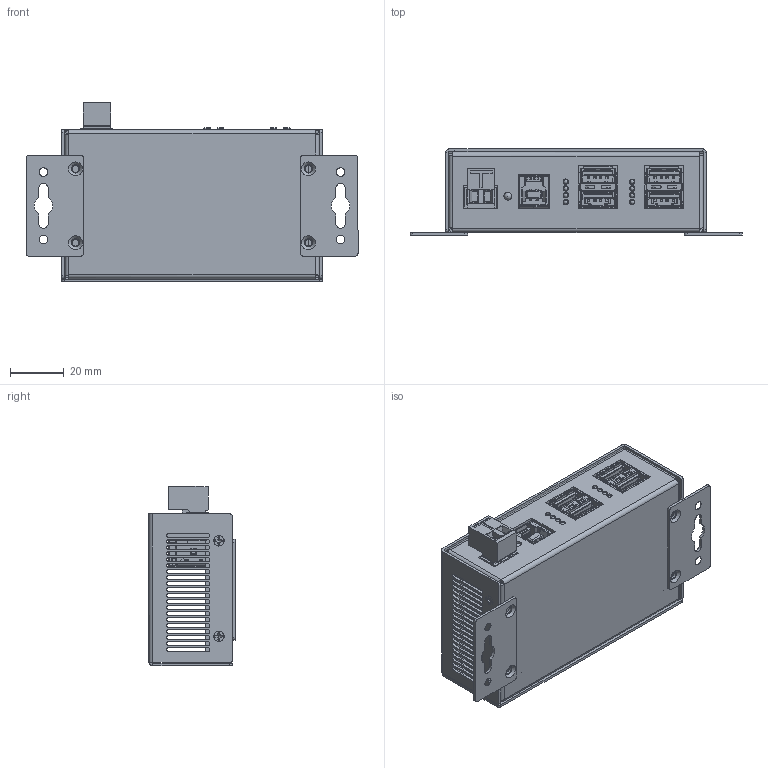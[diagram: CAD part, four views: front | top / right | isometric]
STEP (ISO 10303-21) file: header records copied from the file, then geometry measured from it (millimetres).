
FILE_DESCRIPTION(/* description */ (''),/* implementation_level */ '2;1');
FILE_NAME(/* name */ 'C:/Users/Leo/Desktop/CG-4XUH/CG-4XUH Model3D LPV1.step',/* time_stamp */ '2021-04-07T12:09:59-04:00',/* author */ (''),/* organization */ (''),/* preprocessor_version */ 'ST-DEVELOPER v18.1',/* originating_system */ 'Autodesk Translation Framework v9.10.0.1330',/* authorisation */ '');
FILE_SCHEMA (('AUTOMOTIVE_DESIGN { 1 0 10303 214 3 1 1 }'));
Products named in the file (5): CG-4XUH; Phoenix connector EDZ950/XX TERMINAL BLOCK PLUGGABLE PLUG v6; Base v4; Mounting plate (1); Component56
Assembly tree (5 placements, depth 3):
  CG-4XUH
    Phoenix connector EDZ950/XX TERMINAL BLOCK PLUGGABLE PLUG v6
    Base v4
      Mounting plate (1)  x2
    Component56
Bounding box: 124 x 32.2 x 67.19 mm (x, y, z)
Volume: 37934.4 mm3; surface area: 77046.4 mm2
Topology: 4 solids, 116 shells, 6357 faces, 18169 edges, 11746 vertices
Faces by surface type: plane 4646, cylinder 1427, bspline 179, cone 94, sphere 11
Full cylindrical faces by diameter (mm): 1.6 x2, 2 x8, 2.5 x8, 2.89 x1, 3 x9, 3.86 x2, 5.45 x4
Entity records: 217526 total; most frequent: CARTESIAN_POINT 50165, ORIENTED_EDGE 36184, DIRECTION 32928, EDGE_CURVE 18092, LINE 14352, VECTOR 14352, VERTEX_POINT 11706, AXIS2_PLACEMENT_3D 9288
